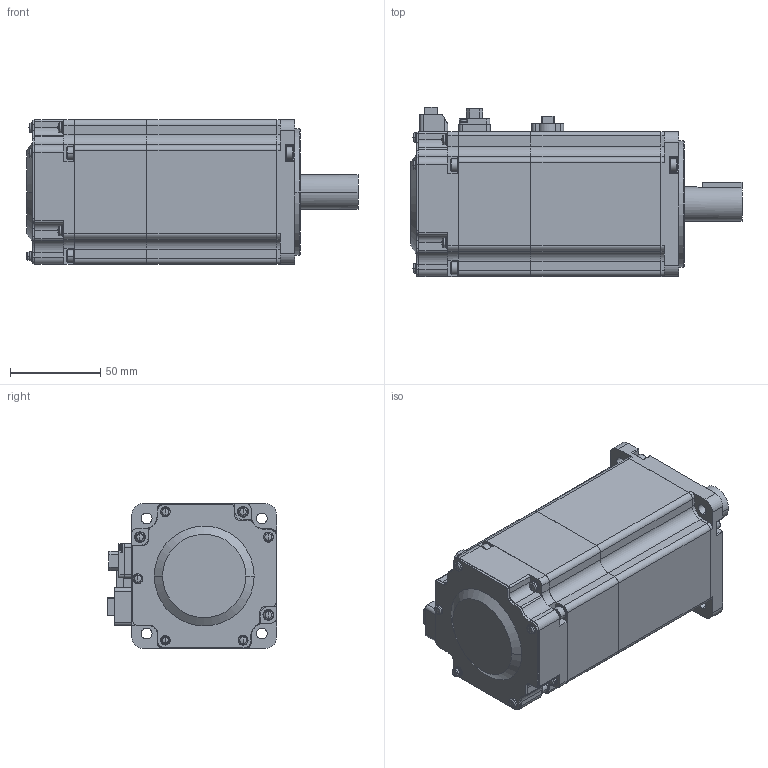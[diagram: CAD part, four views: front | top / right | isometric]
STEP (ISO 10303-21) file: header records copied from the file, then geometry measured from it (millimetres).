
FILE_DESCRIPTION( ( '' ), '1' );
FILE_NAME( '//expscmdclustefs.cadenas.external/client_exchange/iodir/jobs/output/wkb64587533_no0/STEP/MSME082G1V_1__2_14b.stp', '2013-10-23T13:38:19', ( '' ), ( '' ), ' ', ' ', ' ' );
FILE_SCHEMA( ( 'automotive_design' ) );
Length unit declared in the file: millimetre
Products named in the file (1): 1
Bounding box: 183.55 x 93.5 x 80 mm (x, y, z)
Volume: 851023.7 mm3; surface area: 71083.6 mm2
Topology: 1 solids, 1 shells, 819 faces, 2164 edges, 1407 vertices
Faces by surface type: plane 433, cylinder 296, cone 46, torus 44
Entity records: 49662 total; most frequent: DIRECTION 4531, CARTESIAN_POINT 4431, STYLED_ITEM 4365, PRESENTATION_STYLE_ASSIGNMENT 4365, COLOUR_RGB 4365, ORIENTED_EDGE 4276, EDGE_CURVE 2138, CURVE_STYLE 2138
